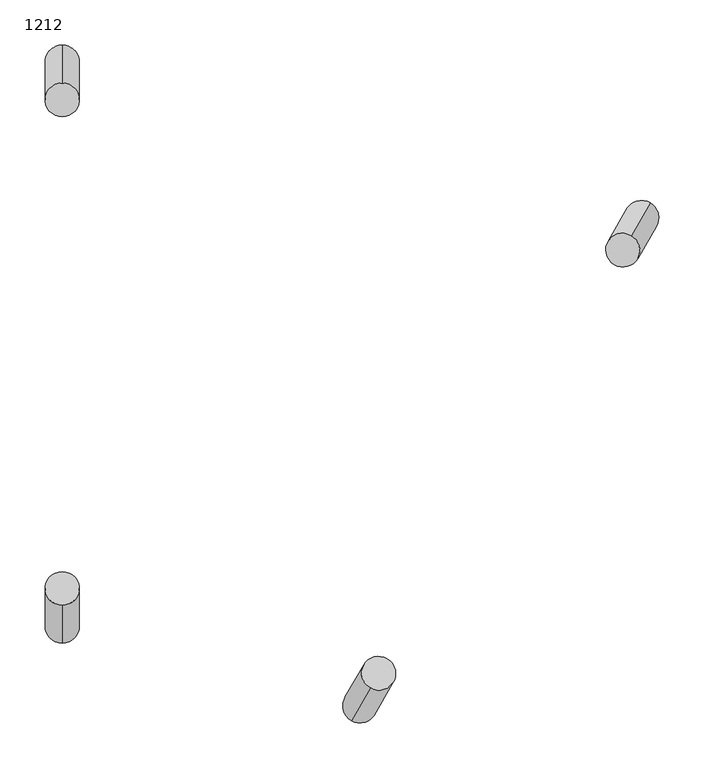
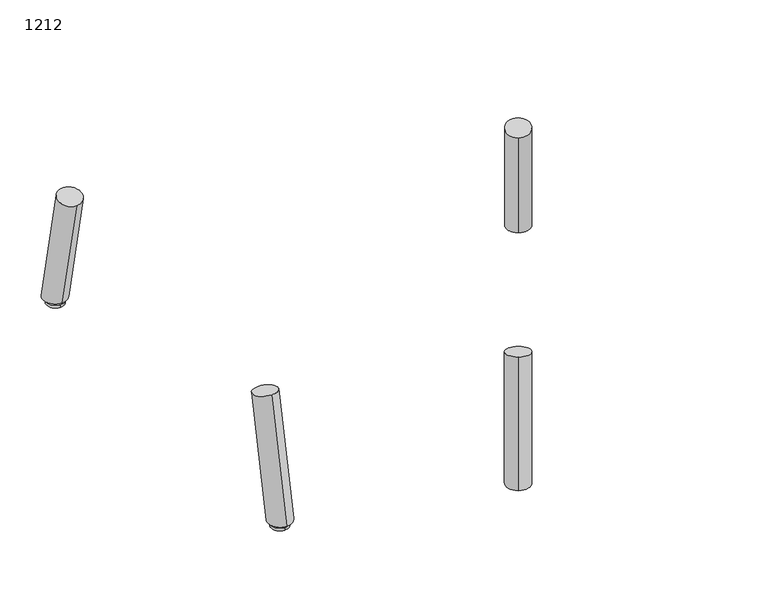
"""IFC4 building model written with IfcOpenShell, lengths in millimetres: furniture geometry, Laguna-Modular-Inside_Curve-ERG : 1212."""

from ifc_helpers import new_model, si_unit, frame, origin, place, context, project, spatial, circle_curve, ellipse_curve, source, transform, mapped, element, save
from ifc_brep_helpers import plane_surface, cylinder_surface, advanced_brep


def furniture_1212_14c63a1d(model_context):
    return source(origin(), model_context, "Body", "AdvancedBrep", [
        advanced_brep(
        [(-4769.4056322, 1441.6208563, 10.16), (-4769.4056322, 1433.13476, 10.16), (-4769.4056322, 1437.3778081, 10.16), (-4769.4056322, 1437.3778081, 0.0), (-4769.4056322, 1423.2994547, 0.0), (-4769.4056322, 1451.4561616, 0.0), (-4769.4056322, 1423.2994547, 3.9615026), (-4769.4056322, 1451.4561616, 3.9615026), (-4769.4056322, 1433.13476, 3.9615026), (-4769.4056322, 1441.6208563, 3.9615026)],
        [
            (0, 1, circle_curve(frame((-4769.4056322, 1437.3778081, 10.16), z_axis=(0.0, 0.0, 1.0), x_axis=(0.0, -1.0, 0.0)), 4.2430482)),
            (1, 2),
            (2, 0),
            (1, 0, circle_curve(frame((-4769.4056322, 1437.3778081, 10.16), z_axis=(0.0, 0.0, 1.0), x_axis=(0.0, -1.0, 0.0)), 4.2430482)),
            (3, 4),
            (4, 5, circle_curve(frame((-4769.4056322, 1437.3778081, 0.0), z_axis=(0.0, 0.0, -1.0), x_axis=(0.0, -1.0, 0.0)), 14.0783534)),
            (5, 3),
            (5, 4, circle_curve(frame((-4769.4056322, 1437.3778081, 0.0), z_axis=(0.0, 0.0, -1.0), x_axis=(0.0, -1.0, 0.0)), 14.0783534)),
            (4, 6),
            (6, 7, circle_curve(frame((-4769.4056322, 1437.3778081, 3.9615026), z_axis=(0.0, 0.0, -1.0), x_axis=(0.0, -1.0, 0.0)), 14.0783534)),
            (7, 5),
            (7, 6, circle_curve(frame((-4769.4056322, 1437.3778081, 3.9615026), z_axis=(0.0, 0.0, -1.0), x_axis=(0.0, -1.0, 0.0)), 14.0783534)),
            (6, 8),
            (8, 9, circle_curve(frame((-4769.4056322, 1437.3778081, 3.9615026), z_axis=(0.0, 0.0, -1.0), x_axis=(0.0, -1.0, 0.0)), 4.2430482)),
            (9, 7),
            (9, 8, circle_curve(frame((-4769.4056322, 1437.3778081, 3.9615026), z_axis=(0.0, 0.0, -1.0), x_axis=(0.0, -1.0, 0.0)), 4.2430482)),
            (8, 1),
            (0, 9),
        ],
        [
            plane_surface(frame((-4769.4056322, 1437.3778081, 10.16), z_axis=(0.0, 0.0, 1.0), x_axis=(0.0, -1.0, 0.0))),
            plane_surface(frame((-4769.4056322, 1437.3778081, 0.0), z_axis=(0.0, 0.0, -1.0), x_axis=(0.0, -1.0, 0.0))),
            cylinder_surface(frame((-4769.4056322, 1437.3778081, 10.16), z_axis=(0.0, 0.0, -1.0), x_axis=(0.0, -1.0, 0.0)), 14.0783534),
            plane_surface(frame((-4769.4056322, 1437.3778081, 3.9615026), z_axis=(0.0, 0.0, 1.0), x_axis=(0.0, -1.0, 0.0))),
            cylinder_surface(frame((-4769.4056322, 1437.3778081, 10.16), z_axis=(0.0, 0.0, -1.0), x_axis=(0.0, -1.0, 0.0)), 4.2430482),
        ],
        [
            (0, [[1, 2, 3]]),
            (0, [[4, -3, -2]]),
            (1, [[5, 6, 7]]),
            (1, [[-7, 8, -5]]),
            (2, [[-6, 9, 10, 11]]),
            (2, [[-8, -11, 12, -9]]),
            (3, [[-10, 13, 14, 15]]),
            (3, [[-12, -15, 16, -13]]),
            (4, [[-14, 17, -1, 18]]),
            (4, [[-16, -18, -4, -17]]),
        ],
    ),
        advanced_brep(
        [(-4769.4056322, 814.5485049, 10.16), (-4769.4056322, 818.7915531, 10.16), (-4769.4056322, 810.3054568, 10.16), (-4769.4056322, 800.4701515, 0.0), (-4769.4056322, 828.6268583, 0.0), (-4769.4056322, 814.5485049, 0.0), (-4769.4056322, 800.4701515, 3.9615026), (-4769.4056322, 828.6268583, 3.9615026), (-4769.4056322, 810.3054568, 3.9615026), (-4769.4056322, 818.7915531, 3.9615026)],
        [
            (0, 1),
            (1, 2, circle_curve(frame((-4769.4056322, 814.5485049, 10.16), z_axis=(0.0, 0.0, 1.0), x_axis=(0.0, 1.0, 0.0)), 4.2430482)),
            (2, 0),
            (2, 1, circle_curve(frame((-4769.4056322, 814.5485049, 10.16), z_axis=(0.0, 0.0, 1.0), x_axis=(0.0, 1.0, 0.0)), 4.2430482)),
            (3, 4, circle_curve(frame((-4769.4056322, 814.5485049, 0.0), z_axis=(0.0, 0.0, -1.0), x_axis=(0.0, 1.0, 0.0)), 14.0783534)),
            (4, 5),
            (5, 3),
            (4, 3, circle_curve(frame((-4769.4056322, 814.5485049, 0.0), z_axis=(0.0, 0.0, -1.0), x_axis=(0.0, 1.0, 0.0)), 14.0783534)),
            (6, 7, circle_curve(frame((-4769.4056322, 814.5485049, 3.9615026), z_axis=(0.0, 0.0, -1.0), x_axis=(0.0, 1.0, 0.0)), 14.0783534)),
            (7, 4),
            (3, 6),
            (7, 6, circle_curve(frame((-4769.4056322, 814.5485049, 3.9615026), z_axis=(0.0, 0.0, -1.0), x_axis=(0.0, 1.0, 0.0)), 14.0783534)),
            (8, 9, circle_curve(frame((-4769.4056322, 814.5485049, 3.9615026), z_axis=(0.0, 0.0, -1.0), x_axis=(0.0, 1.0, 0.0)), 4.2430482)),
            (9, 7),
            (6, 8),
            (9, 8, circle_curve(frame((-4769.4056322, 814.5485049, 3.9615026), z_axis=(0.0, 0.0, -1.0), x_axis=(0.0, 1.0, 0.0)), 4.2430482)),
            (1, 9),
            (8, 2),
        ],
        [
            plane_surface(frame((-4769.4056322, 814.5485049, 10.16), z_axis=(0.0, 0.0, 1.0), x_axis=(0.0, 1.0, 0.0))),
            plane_surface(frame((-4769.4056322, 814.5485049, 0.0), z_axis=(0.0, 0.0, -1.0), x_axis=(0.0, 1.0, 0.0))),
            cylinder_surface(frame((-4769.4056322, 814.5485049, 10.16), z_axis=(0.0, 0.0, 1.0), x_axis=(0.0, 1.0, 0.0)), 14.0783534),
            plane_surface(frame((-4769.4056322, 814.5485049, 3.9615026), z_axis=(0.0, 0.0, 1.0), x_axis=(0.0, 1.0, 0.0))),
            cylinder_surface(frame((-4769.4056322, 814.5485049, 10.16), z_axis=(0.0, 0.0, 1.0), x_axis=(0.0, 1.0, 0.0)), 4.2430482),
        ],
        [
            (0, [[1, 2, 3]]),
            (0, [[-3, 4, -1]]),
            (1, [[5, 6, 7]]),
            (1, [[8, -7, -6]]),
            (2, [[9, 10, -5, 11]]),
            (2, [[12, -11, -8, -10]]),
            (3, [[13, 14, -9, 15]]),
            (3, [[16, -15, -12, -14]]),
            (4, [[-2, 17, -13, 18]]),
            (4, [[-4, -18, -16, -17]]),
        ],
    ),
        advanced_brep(
        [(-4769.4056322, 1415.8454177, 207.1767944), (-4769.4056322, 1378.584843, 199.2232056), (-4769.4056322, 1457.9003393, 10.16), (-4769.4056322, 1418.942003, 10.16)],
        [
            (0, 1, circle_curve(frame((-4769.4056322, 1397.2151303, 203.2), z_axis=(0.0, -0.20875560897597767, 0.977967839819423), x_axis=(0.0, -0.977967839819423, -0.20875560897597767)), 19.05)),
            (1, 0, circle_curve(frame((-4769.4056322, 1397.2151303, 203.2), z_axis=(0.0, -0.20875560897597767, 0.977967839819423), x_axis=(0.0, -0.977967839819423, -0.20875560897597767)), 19.05)),
            (0, 2),
            (2, 3, ellipse_curve(frame((-4769.4056322, 1438.4211712, 10.16), z_axis=(0.0, 0.0, 1.0), x_axis=(0.0, -1.0, 0.0)), 19.4791682, 19.05)),
            (3, 1),
            (3, 2, ellipse_curve(frame((-4769.4056322, 1438.4211712, 10.16), z_axis=(0.0, 0.0, 1.0), x_axis=(0.0, -1.0, 0.0)), 19.4791682, 19.05)),
        ],
        [
            plane_surface(frame((-4769.4056322, 1397.2151303, 203.2), z_axis=(0.0, -0.20875560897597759, 0.977967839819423), x_axis=(-1.0, 0.0, 0.0))),
            cylinder_surface(frame((-4769.4056322, 1397.2151303, 203.2), z_axis=(0.0, -0.20875560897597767, 0.977967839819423), x_axis=(0.0, -0.977967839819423, -0.20875560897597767)), 19.05),
            plane_surface(frame((-3404.1553779, 1460.7151303, 10.16), z_axis=(0.0, 0.0, -1.0), x_axis=(-1.0, 0.0, 0.0))),
        ],
        [
            (0, [[1, 2]]),
            (1, [[-1, 3, 4, 5]]),
            (1, [[-2, -5, 6, -3]]),
            (2, [[-4, -6]]),
        ],
    ),
        advanced_brep(
        [(-4769.4056322, 873.8900017, 199.2232056), (-4769.4056322, 836.629427, 207.1767944), (-4769.4056322, 833.5328417, 10.16), (-4769.4056322, 794.5745054, 10.16)],
        [
            (0, 1, circle_curve(frame((-4769.4056322, 855.2597144, 203.2), z_axis=(0.0, 0.20875560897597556, 0.9779678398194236), x_axis=(0.0, -0.9779678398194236, 0.20875560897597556)), 19.05)),
            (1, 0, circle_curve(frame((-4769.4056322, 855.2597144, 203.2), z_axis=(0.0, 0.20875560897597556, 0.9779678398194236), x_axis=(0.0, -0.9779678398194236, 0.20875560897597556)), 19.05)),
            (0, 2),
            (2, 3, ellipse_curve(frame((-4769.4056322, 814.0536735, 10.16), z_axis=(0.0, 0.0, 1.0), x_axis=(0.0, 0.9999999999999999, 0.0)), 19.4791682, 19.05)),
            (3, 1),
            (3, 2, ellipse_curve(frame((-4769.4056322, 814.0536735, 10.16), z_axis=(0.0, 0.0, 1.0), x_axis=(0.0, 0.9999999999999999, 0.0)), 19.4791682, 19.05)),
        ],
        [
            plane_surface(frame((-4769.4056322, 855.2597144, 203.2), z_axis=(0.0, 0.2087556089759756, 0.9779678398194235), x_axis=(-1.0, 0.0, 0.0))),
            cylinder_surface(frame((-4769.4056322, 855.2597144, 203.2), z_axis=(0.0, 0.20875560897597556, 0.9779678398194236), x_axis=(0.0, -0.9779678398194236, 0.20875560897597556)), 19.05),
            plane_surface(frame((-3404.1553779, 1460.7151303, 10.16), z_axis=(0.0, 0.0, -1.0), x_axis=(-1.0, 0.0, 0.0))),
        ],
        [
            (0, [[1, 2]]),
            (1, [[-1, 3, 4, 5]]),
            (1, [[-2, -5, 6, -3]]),
            (2, [[-4, -6]]),
        ],
    ),
        advanced_brep(
        [(-4137.9133701, 1246.637576, 207.1767944), (-4156.5436575, 1214.3689718, 199.2232056), (-4116.8859093, 1283.0582065, 10.16), (-4136.3650775, 1249.3192976, 10.16)],
        [
            (0, 1, circle_curve(frame((-4147.2285138, 1230.5032739, 203.2), z_axis=(-0.1043778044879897, -0.18078766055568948, 0.9779678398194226), x_axis=(-0.4889839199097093, -0.8469449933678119, -0.2087556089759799)), 19.05)),
            (1, 0, circle_curve(frame((-4147.2285138, 1230.5032739, 203.2), z_axis=(-0.1043778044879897, -0.18078766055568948, 0.9779678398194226), x_axis=(-0.4889839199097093, -0.8469449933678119, -0.2087556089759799)), 19.05)),
            (0, 2),
            (2, 3, ellipse_curve(frame((-4126.6254934, 1266.1887521, 10.16), z_axis=(0.0, 0.0, 1.0), x_axis=(-0.49999999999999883, -0.8660254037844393, 0.0)), 19.4791682, 19.05)),
            (3, 1),
            (3, 2, ellipse_curve(frame((-4126.6254934, 1266.1887521, 10.16), z_axis=(0.0, 0.0, 1.0), x_axis=(-0.49999999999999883, -0.8660254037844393, 0.0)), 19.4791682, 19.05)),
        ],
        [
            plane_surface(frame((-4147.2285138, 1230.5032739, 203.2), z_axis=(-0.10437780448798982, -0.18078766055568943, 0.9779678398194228), x_axis=(-0.866025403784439, 0.4999999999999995, 0.0))),
            cylinder_surface(frame((-4147.2285138, 1230.5032739, 203.2), z_axis=(-0.10437780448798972, -0.1807876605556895, 0.9779678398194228), x_axis=(-0.4889839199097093, -0.8469449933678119, -0.2087556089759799)), 19.05),
            plane_surface(frame((-3404.1553779, 1460.7151303, 10.16), z_axis=(0.0, 0.0, -1.0), x_axis=(-1.0, 0.0, 0.0))),
        ],
        [
            (0, [[1, 2]]),
            (1, [[-1, 3, 4, 5]]),
            (1, [[-2, -5, 6, -3]]),
            (2, [[-4, -6]]),
        ],
    ),
        advanced_brep(
        [(-4408.8910781, 777.2904181, 199.2232056), (-4427.5213655, 745.0218138, 207.1767944), (-4429.0696581, 742.3400923, 10.16), (-4448.5488263, 708.6011833, 10.16)],
        [
            (0, 1, circle_curve(frame((-4418.2062218, 761.156116, 203.2), z_axis=(0.10437780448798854, 0.18078766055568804, 0.977967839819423), x_axis=(-0.4889839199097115, -0.8469449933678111, 0.20875560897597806)), 19.05)),
            (1, 0, circle_curve(frame((-4418.2062218, 761.156116, 203.2), z_axis=(0.10437780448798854, 0.18078766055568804, 0.977967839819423), x_axis=(-0.4889839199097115, -0.8469449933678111, 0.20875560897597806)), 19.05)),
            (0, 2),
            (2, 3, ellipse_curve(frame((-4438.8092422, 725.4706378, 10.16), z_axis=(0.0, 0.0, 1.0), x_axis=(0.4999999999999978, 0.86602540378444, 0.0)), 19.4791682, 19.05)),
            (3, 1),
            (3, 2, ellipse_curve(frame((-4438.8092422, 725.4706378, 10.16), z_axis=(0.0, 0.0, 1.0), x_axis=(0.4999999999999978, 0.86602540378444, 0.0)), 19.4791682, 19.05)),
        ],
        [
            plane_surface(frame((-4418.2062218, 761.156116, 203.2), z_axis=(0.1043778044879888, 0.18078766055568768, 0.9779678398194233), x_axis=(-0.866025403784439, 0.4999999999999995, 0.0))),
            cylinder_surface(frame((-4418.2062218, 761.156116, 203.2), z_axis=(0.10437780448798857, 0.18078766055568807, 0.9779678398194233), x_axis=(-0.4889839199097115, -0.8469449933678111, 0.20875560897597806)), 19.05),
            plane_surface(frame((-3404.1553779, 1460.7151303, 10.16), z_axis=(0.0, 0.0, -1.0), x_axis=(-1.0, 0.0, 0.0))),
        ],
        [
            (0, [[1, 2]]),
            (1, [[-1, 3, 4, 5]]),
            (1, [[-2, -5, 6, -3]]),
            (2, [[-4, -6]]),
        ],
    ),
    ])


if __name__ == "__main__":
    model = new_model("IFC4")
    model_context = context("Model", 3, world=origin())
    ifc_project = project(units=[si_unit("LENGTHUNIT", "METRE", prefix="MILLI")], contexts=[model_context])
    site = spatial("IfcSite", under=ifc_project)
    building = spatial("IfcBuilding", under=site)
    placement = place(None, origin())
    furniture_1212_shape = furniture_1212_14c63a1d(model_context)
    element("IfcFurniture", 1, ObjectType="Laguna-Modular-Inside_Curve-ERG : 1212", at=placement, inside=building, context=model_context, shape_type="MappedRepresentation", body=[
        mapped(furniture_1212_shape, transform((0.0, 0.0, 0.0), x_axis=(1.0, 0.0, 0.0), y_axis=(0.0, 1.0, 0.0), z_axis=(0.0, 0.0, 1.0))),
    ])
    save(model, "model.ifc")
